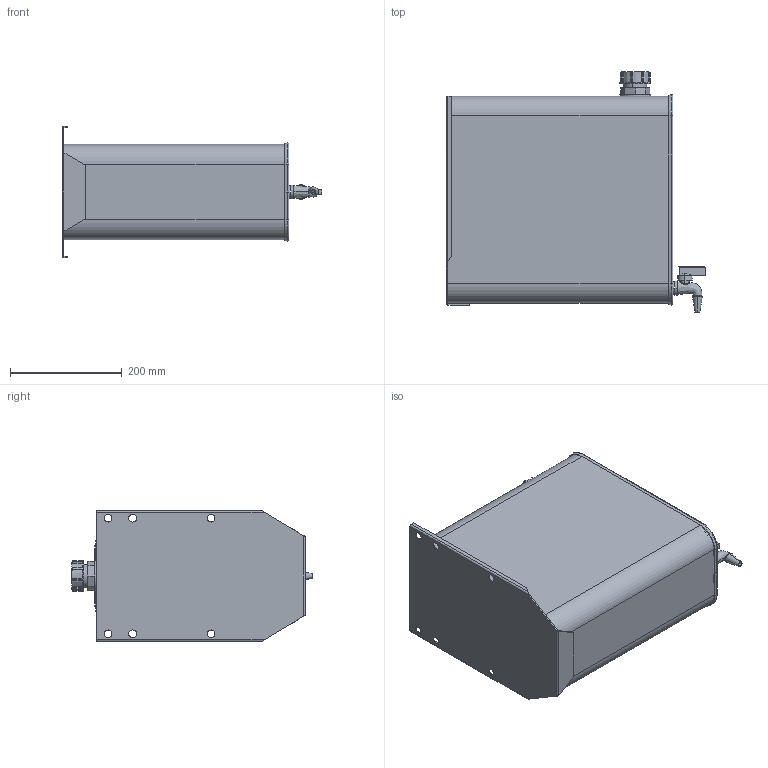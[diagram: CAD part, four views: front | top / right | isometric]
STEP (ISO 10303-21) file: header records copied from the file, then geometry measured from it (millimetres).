
FILE_DESCRIPTION (( 'STEP AP203' ), '1' );
FILE_NAME ('V9025.STEP', '2026-01-07T10:49:28', ( '' ), ( '' ), 'SwSTEP 2.0', 'SolidWorks 2023', '' );
FILE_SCHEMA (( 'CONFIG_CONTROL_DESIGN' ));
Length unit declared in the file: millimetre
Products named in the file (1): V9025
Bounding box: 463.25 x 429 x 234 mm (x, y, z)
Surface area: 706256.7 mm2 (no closed solid volume)
Topology: 0 solids, 11 shells, 193 faces, 508 edges, 318 vertices
Faces by surface type: plane 90, cylinder 55, cone 24, bspline 12, torus 12
Entity records: 7469 total; most frequent: CARTESIAN_POINT 2715, DIRECTION 994, ORIENTED_EDGE 918, EDGE_CURVE 506, AXIS2_PLACEMENT_3D 369, VERTEX_POINT 318, VECTOR 256, LINE 256
